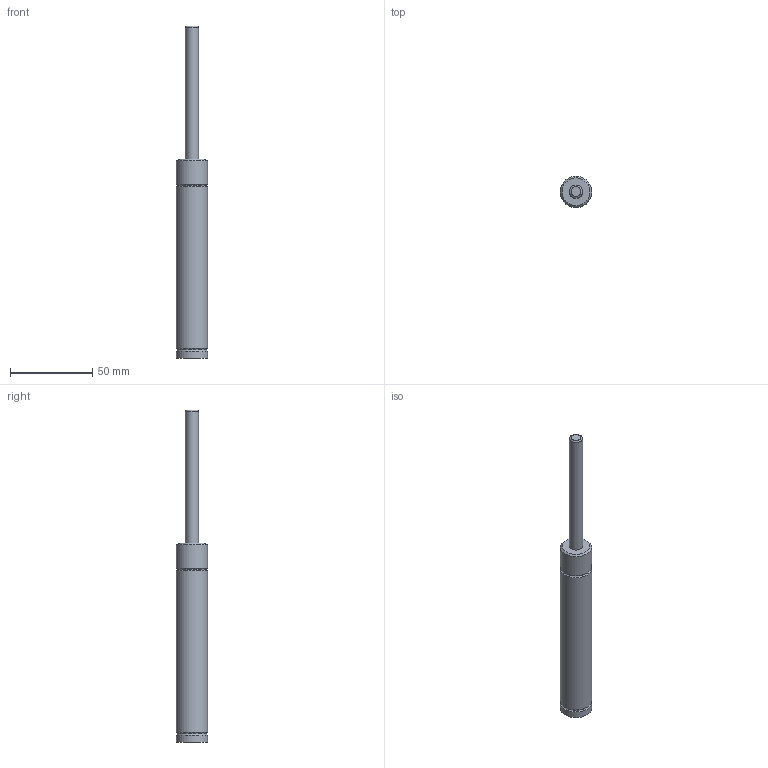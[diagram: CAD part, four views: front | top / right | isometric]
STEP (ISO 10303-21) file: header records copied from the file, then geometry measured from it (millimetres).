
FILE_DESCRIPTION(('FreeCAD Model'),'2;1');
FILE_NAME('Open CASCADE Shape Model','2024-11-14T11:16:50',('Author'),( ''),'Open CASCADE STEP processor 7.6','FreeCAD','Unknown');
FILE_SCHEMA(('AUTOMOTIVE_DESIGN { 1 0 10303 214 1 1 1 1 }'));
Length unit declared in the file: millimetre
Products named in the file (5): Unnamed; Part; Fillet; Part005; Cut001
Assembly tree (4 placements, depth 3):
  Unnamed
    Part
      Fillet
    Part005
      Cut001
Bounding box: 19 x 19 x 202 mm (x, y, z)
Volume: 38002.7 mm3; surface area: 10122.1 mm2
Topology: 2 solids, 2 shells, 16 faces, 25 edges, 14 vertices
Faces by surface type: cylinder 5, torus 5, plane 5, cone 1
Full cylindrical faces by diameter (mm): 6 x1, 8 x1, 19 x3
Entity records: 466 total; most frequent: DIRECTION 86, CARTESIAN_POINT 60, ORIENTED_EDGE 50, AXIS2_PLACEMENT_3D 40, EDGE_CURVE 25, CIRCLE 19, FACE_BOUND 17, EDGE_LOOP 17
